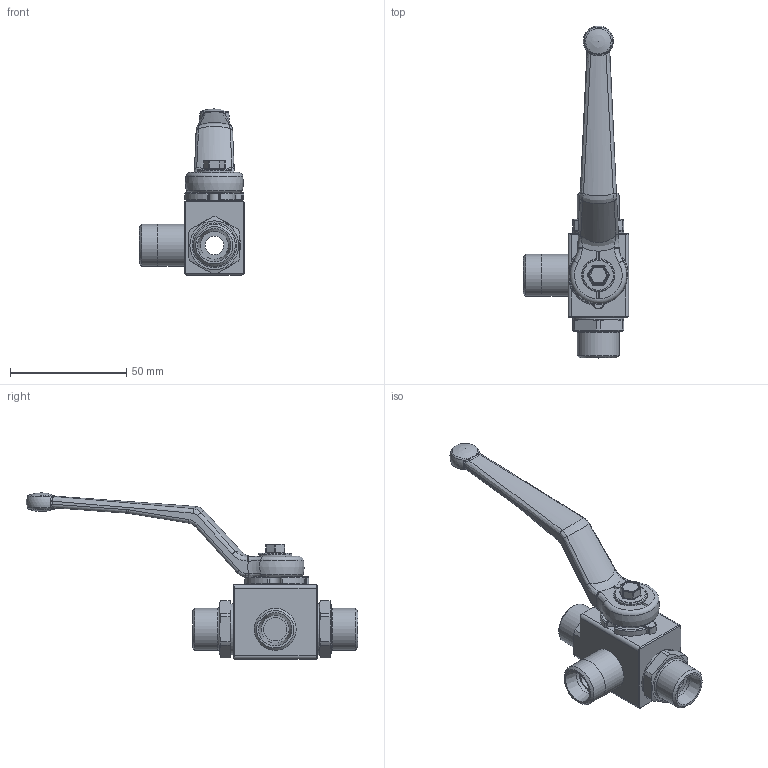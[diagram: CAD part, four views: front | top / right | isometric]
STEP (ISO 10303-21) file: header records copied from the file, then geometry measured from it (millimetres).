
FILE_DESCRIPTION( ( 'Unknown' ), '1' );
FILE_NAME( 'H:/PISTER/3D-MODELLE/BK3 stp/BK3 DN8 12L.stp', 'Unknown', ( 'Unknown' ), ( 'Unknown' ), 'PSStep 14.0', 'Unknown', ' ' );
FILE_SCHEMA( ( 'AUTOMOTIVE_DESIGN { 1 0 10303 214 1 1 1 1 }' ) );
Length unit declared in the file: millimetre
Products named in the file (10): Assem1; 06-008-059-oa7; 09-09-002; 58-28740-07-oa8; Griff_SW9; 58-0933-133; 04-008-045-oa9; 04-008-045-oa10; 01-008-016-oa11; 04-010-092-oa12
Assembly tree (9 placements, depth 2):
  Assem1
    06-008-059-oa7
    09-09-002
    58-28740-07-oa8
    Griff_SW9
    58-0933-133
    04-008-045-oa9
    04-008-045-oa10
    01-008-016-oa11
    04-010-092-oa12
Bounding box: 45.2 x 142.5 x 71.4 mm (x, y, z)
Volume: 30252.3 mm3; surface area: 23602.4 mm2
Topology: 9 solids, 9 shells, 388 faces, 953 edges, 573 vertices
Faces by surface type: cylinder 131, plane 125, bspline 42, torus 40, cone 30, sphere 20
Full cylindrical faces by diameter (mm): 4.134 x1, 4.98 x1, 5 x1, 8 x2, 10 x1, 12 x3, 14 x2, 14.3 x1, 18 x5, 22 x2, 22.5 x2
Entity records: 15804 total; most frequent: CARTESIAN_POINT 3956, DIRECTION 1845, ORIENTED_EDGE 1710, EDGE_CURVE 855, AXIS2_PLACEMENT_3D 752, VERTEX_POINT 548, EDGE_LOOP 468, FACE_OUTER_BOUND 421
